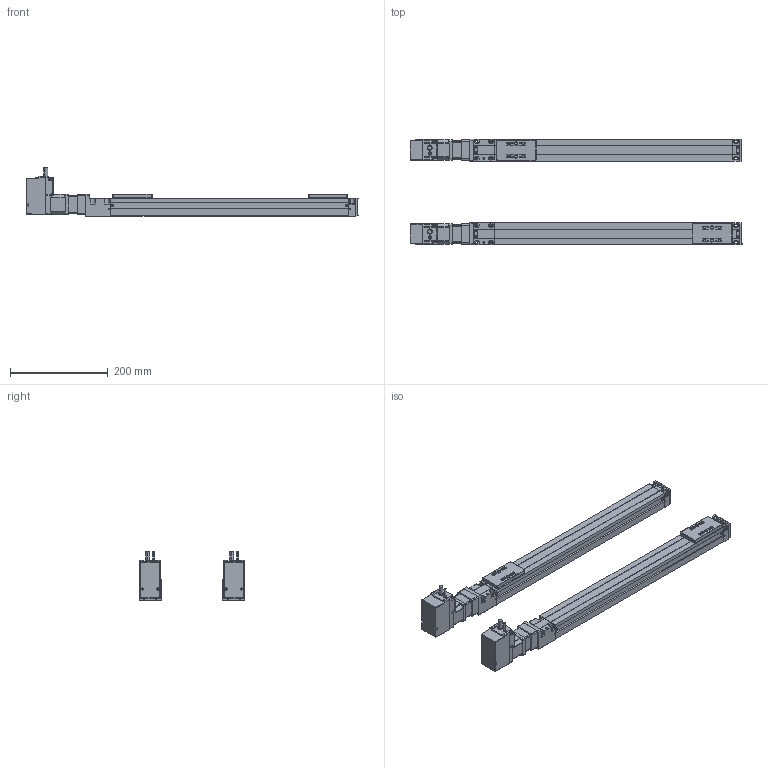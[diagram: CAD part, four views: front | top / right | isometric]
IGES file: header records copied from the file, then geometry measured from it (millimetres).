
Start section: IMSI TurboCAD v14.0
Global section: author: NULL; organization: NULL; date: 20110316.102439; units: millimetre
Bounding box: 678.67 x 216.56 x 100.06 mm (x, y, z)
Surface area: 490164.2 mm2 (no closed solid volume)
Topology: 0 solids, 0 shells, 4173 faces, 22406 edges, 22334 vertices
Faces by surface type: revolution 2020, extrusion 1957, bspline 196
